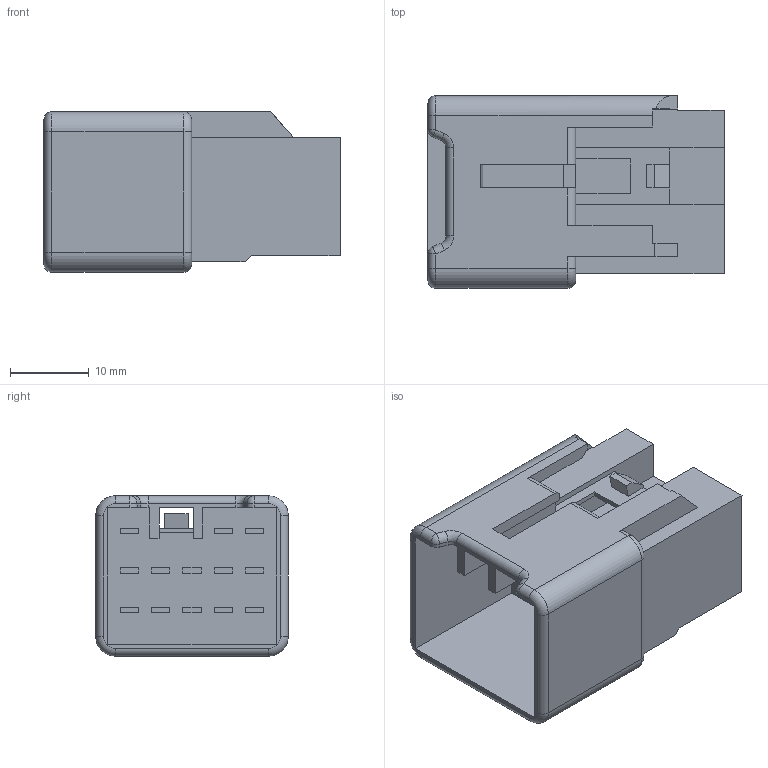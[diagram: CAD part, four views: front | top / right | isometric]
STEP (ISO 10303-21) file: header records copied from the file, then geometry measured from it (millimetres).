
FILE_DESCRIPTION(('CATIA V5 STEP Exchange','CAx-IF Rec.Pracs.--- Model Styling and Organization---1.2---2011-12-15'),'2;1');
FILE_NAME('N:\C-DAM_MyDesk\ENV\900093\6240-1131.stp','2015-01-20T02:08:19+00:00',('none'),('none'),'CATIA Version 5-6 Release 2012 SP4 HF74','CATIA V5 STEP AP214','none');
FILE_SCHEMA(('AUTOMOTIVE_DESIGN { 1 0 10303 214 1 1 1 1 }'));
Length unit declared in the file: millimetre
Products named in the file (1): 6240-1131
Bounding box: 37.7 x 24.5 x 20.4 mm (x, y, z)
Volume: 8236.9 mm3; surface area: 6198 mm2
Topology: 1 solids, 1 shells, 227 faces, 585 edges, 380 vertices
Faces by surface type: plane 194, cylinder 22, torus 9, sphere 2
Entity records: 6492 total; most frequent: ORIENTED_EDGE 1166, CARTESIAN_POINT 1151, DIRECTION 934, EDGE_CURVE 583, VECTOR 529, LINE 529, VERTEX_POINT 380, EDGE_LOOP 253
